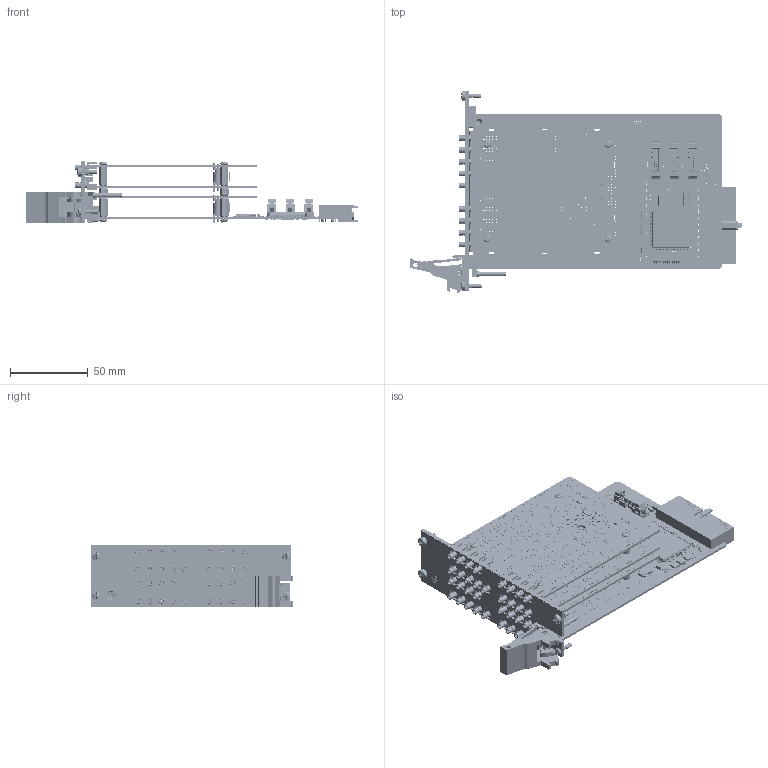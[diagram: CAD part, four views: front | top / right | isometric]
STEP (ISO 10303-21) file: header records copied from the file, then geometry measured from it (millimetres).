
FILE_DESCRIPTION (( 'STEP AP214' ), '1' );
FILE_NAME ('40-764-002 BASIC ASSY.STEP', '2019-10-10T14:22:41', ( '' ), ( '' ), 'SwSTEP 2.0', 'SolidWorks 2019', '' );
FILE_SCHEMA (( 'AUTOMOTIVE_DESIGN' ));
Length unit declared in the file: millimetre
Products named in the file (68): C-CN-1368-PLUG PIN RF SMB ST N TH SD; C-MS-1012 ROLL 3x5x1000mm CONDUCTIVE SHIELDING GASKET; P-FX-017 M2,5 Collar Posi-Slot Screw; C-IC-191 74HC32 (3.3v); C-FX-101 M2.5x6mm Pan Head Cross Recess Screw_ISO_ISO 7045 - M2.5 x 6 - Z --- 6N; C-CN-1368-STRIP RF SMB ST N TH SD; C-MS-1019 1x6x6mm CONDUCTIVE SHIELDING GASKET_6mm Long gasket; C-SC-035 Transistor SMT; C-BK-026 Bush Front Panel Mounting; C-FX-303 12mm M2.5 Hex Standoff_12mm Hexagonal spacer; C-FP-922 SMB 2SL PXI FP; C-BP-018 PXI 3U x 2 Slot Blank Panel; C-IC-155 93LC66B-SN (SO8)_No Text; C-FX-165 CPCI Ejector Handle; C-CN-1368-BASE RF SMB ST N TH SD; C-MS-1018 3x5x78mm CONDUCTIVE SHIELDING GASKET_78mm Long Gasket; C-FX-042 Screw M2.5x6 CSK Pozi_M 2.5x06 - C-FX-042; C-RS-081 0805 SD; C-FX-432 M2.5 x 6mm Slotted Screw with Vibra Fix Solution; 40-764-002 BASIC ASSY; C-FX-165 Handle Body; C-RS-102 RES 4x10R 1206 1-16W 5% 200PPM; Z-FX-2001 FP Fixing - Bush + Screw; L-FP-922 SMB 2SL PXI FP Label; A-PC-1081-N 40-760 600MHz MUX Mother; A-PC-1082-E 40-760 600MHz MUX Daughter; C-RS-021 SMT Res 51 ohms (1206); A-FP-922 SMB 2SL PXI FP + Label Assy; A-PC-1082-E-# 40-760 600MHz MUX Daughter; C-FX-845 M2.5 x 5mm Hexagonal Standoff_5mm Hexagonal spacer; C-CN-930 SMB EDGE CARD PCB REC 50 OHM; C-FX-025 Pcb Mounting Bracket; C-CN-1368 RF SMB ST N TH SD; C-PC-1081 40-760 600MHz MUX Mother; C-CN-1368-PIN RF SMB ST N TH SD; C-IC-269 OCTAL D-TYPE FLIP-FLOP 20TSSOP; C-CN-355 Compact pci connector 3; C-CN-1368-MAIN BODY RF SMB ST N TH SD; C-MS-1014 ROLL 1x6x1000mm long CONDUCTIVE SHIELDING GASKET; A-PC-1081-N-# 40-760 600MHz MUX Mother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
Assembly tree (245 placements, depth 5):
  40-764-002 BASIC ASSY
    A-PC-1081-N 40-760 600MHz MUX Mother
      A-PC-1081-N-# 40-760 600MHz MUX Mother
        C-PC-1081 40-760 600MHz MUX Mother
        C-RS-518 Res 51R (0603) SMT  x68
        C-CN-887 2 X8 WAY HEADER MALE STRAIGHT  x3
        C-IC-124 16-Bit Constant Current Sink Driver  x2
        C-CP-190 CAP 33000pF 3 TERMINAL 6A  x4
        C-RS-081 0805 SD
        C-RS-021 SMT Res 51 ohms (1206)  x5
        C-CN-355 Compact pci connector 3
        C-SC-035 Transistor SMT
        C-RS-102 RES 4x10R 1206 1-16W 5% 200PPM  x25
        C-IC-163 PLX 9030 (PQFP176)
        C-IC-155 93LC66B-SN (SO8)_No Text  x3
        C-IC-269 OCTAL D-TYPE FLIP-FLOP 20TSSOP  x2
        C-IC-191 74HC32 (3.3v)
        C-IC-441 ADUM7642CRQZ (QSOP20) Isolator  x4
      C-CN-930 SMB EDGE CARD PCB REC 50 OHM  x9
    A-PC-1082-E 40-760 600MHz MUX Daughter
      A-PC-1082-E-# 40-760 600MHz MUX Daughter
        C-PC-1082 40-760 600MHz MUX Daughter
      C-CN-930 SMB EDGE CARD PCB REC 50 OHM  x8
    A-PC-1082-F 40-760 600MHz MUX Daughter
      A-PC-1082-F-# 40-760 600MHz MUX Daughter
        C-PC-1082 40-760 600MHz MUX Daughter
      C-CN-930 SMB EDGE CARD PCB REC 50 OHM  x9
    A-PC-1082-G 40-760 600MHz MUX Daughter
      A-PC-1082-G-# 40-760 600MHz MUX Daughter
        C-PC-1082 40-760 600MHz MUX Daughter
      C-CN-930 SMB EDGE CARD PCB REC 50 OHM  x8
    A-FP-922-L1 SMB 2SL PXI FP Full assy
      A-FP-922 SMB 2SL PXI FP + Label Assy
        C-FP-922 SMB 2SL PXI FP
          C-BP-018 PXI 3U x 2 Slot Blank Panel
        L-FP-922 SMB 2SL PXI FP Label
          L-FP-922-# SMB 2SL PXI FP Label
      C-FX-165 CPCI Ejector Handle
        C-FX-165 Handle Body
        C-FX-165 Handle Finger
        C-FX-165 Handle Pin
        P-FX-017 M2,5 Collar Posi-Slot Screw
        L-FX-165 PXI Handle Label
      Z-FX-2001 FP Fixing - Bush + Screw
        C-BK-026 Bush Front Panel Mounting
        P-FX-017 M2,5 Collar Posi-Slot Screw
      Z-FX-2001 FP Fixing - Bush + Screw
        C-BK-026 Bush Front Panel Mounting
        P-FX-017 M2,5 Collar Posi-Slot Screw
      Z-FX-2001 FP Fixing - Bush + Screw
        C-BK-026 Bush Front Panel Mounting
        P-FX-017 M2,5 Collar Posi-Slot Screw
      C-FX-025 Pcb Mounting Bracket
      C-FX-101 M2.5x6mm Pan Head Cross Recess Screw_ISO_ISO 7045 - M2.5 x 6 - Z --- 6N
      C-FX-042 Screw M2.5x6 CSK Pozi_M 2.5x06 - C-FX-042
    C-FX-945 BRASS PILLAR M2.5 X 12MM M-F  x4
    C-FX-303 12mm M2.5 Hex Standoff_12mm Hexagonal spacer  x4
    C-FX-845 M2.5 x 5mm Hexagonal Standoff_5mm Hexagonal spacer  x4
    C-FX-432 M2.5 x 6mm Slotted Screw with Vibra Fix Solution  x8
    C-FX-101 M2.5x6mm Pan Head Cross Recess Screw_ISO_ISO 7045 - M2.5 x 6 - Z --- 6N  x2
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Bounding box: 214.01 x 129.87 x 40.09 mm (x, y, z)
Volume: 111420.9 mm3; surface area: 177502.3 mm2
Topology: 352 solids, 379 shells, 26721 faces, 72312 edges, 46869 vertices
Faces by surface type: plane 13137, cylinder 11897, cone 844, bspline 586, torus 229, sphere 28
Full cylindrical faces by diameter (mm): 0.25 x2, 0.28 x2, 0.3 x604, 0.38 x34, 0.4 x8375, 0.425 x34, 0.55 x2, 0.6 x110, 0.635 x12, 0.7 x136, 0.711 x96, 0.9 x18, 0.96 x8, 0.965 x2, 1.168 x11, 1.194 x6, 1.25 x2, 1.3 x2, 1.496 x2, 1.5 x1, 1.702 x44, 1.948 x1, 2 x10, 2.03 x2, 2.05 x22, 2.13 x34, 2.15 x34, 2.16 x2, 2.208 x1, 2.3 x2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
Entity records: 544004 total; most frequent: CARTESIAN_POINT 81797, DIRECTION 68059, ORIENTED_EDGE 60514, EDGE_CURVE 30258, EDGE_LOOP 29053, AXIS2_PLACEMENT_3D 25865, VERTEX_POINT 23085, FACE_OUTER_BOUND 18379
